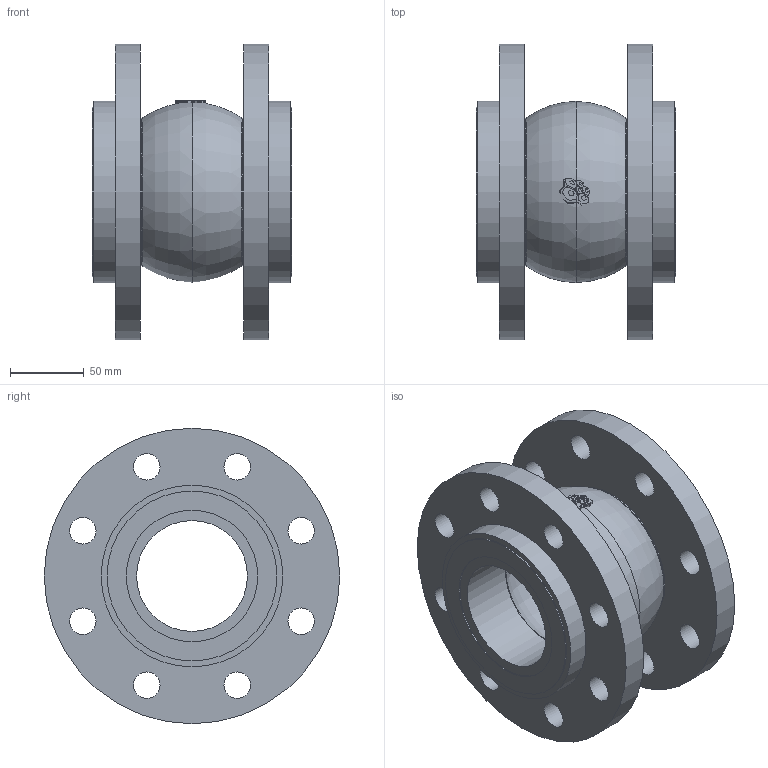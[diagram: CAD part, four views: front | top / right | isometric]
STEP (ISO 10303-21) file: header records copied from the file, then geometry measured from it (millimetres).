
FILE_DESCRIPTION(('STEP AP203'), '1');
FILE_NAME('3D_500_501-080-EPDM-FF_1', '', ('UNSPECIFIED'), ('UNSPECIFIED'), 'C3D Converter', 'C3D Toolkit', '');
FILE_SCHEMA(('CONFIG_CONTROL_DESIGN'));
Length unit declared in the file: millimetre
Bounding box: 135 x 200 x 200 mm (x, y, z)
Volume: 1372645.6 mm3; surface area: 206692.8 mm2
Topology: 9 solids, 9 shells, 875 faces, 2567 edges, 1718 vertices
Faces by surface type: plane 839, cylinder 28, torus 8
Full cylindrical faces by diameter (mm): 18 x16, 75 x2, 89 x2, 100 x2, 115 x2, 123 x2, 200 x2
Entity records: 35548 total; most frequent: CARTESIAN_POINT 5125, ORIENTED_EDGE 5062, DIRECTION 4375, EDGE_CURVE 2531, LINE 2439, VECTOR 2439, VERTEX_POINT 1718, AXIS2_PLACEMENT_3D 968
